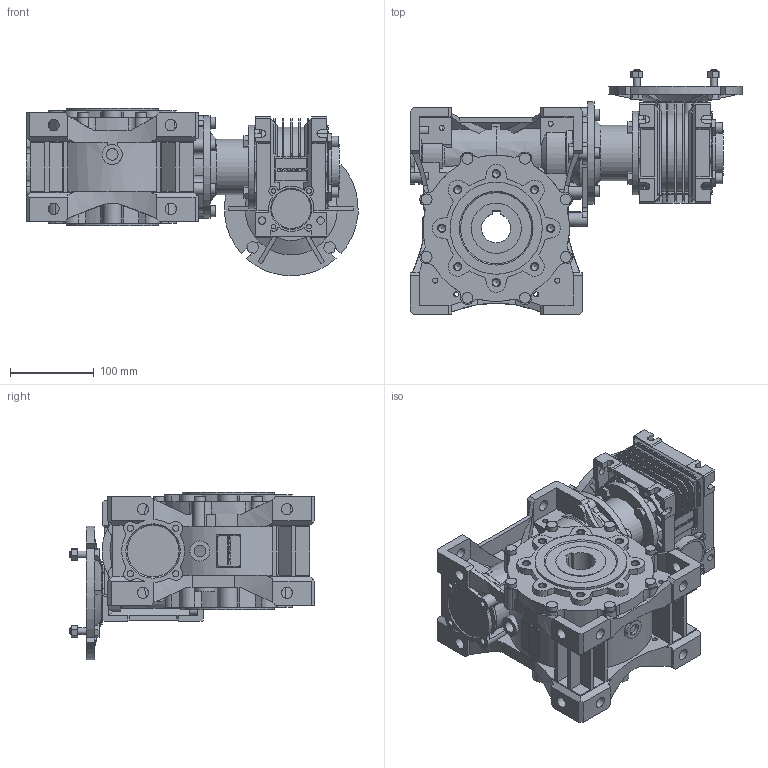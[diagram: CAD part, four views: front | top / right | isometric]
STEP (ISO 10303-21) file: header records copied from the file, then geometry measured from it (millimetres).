
FILE_DESCRIPTION(/* description */ ('STEP AP214'),/* implementation_level */ '2;1');
FILE_NAME(/* name */ 'NMRVP-NMRVP 050-090 100 (10x10) VS1 160x14 25 NO 35 NO NO - - NO - - - NO NO - --(--------)',/* time_stamp */ '2024-10-24T14:28:39+02:00',/* author */ ('License CC BY-ND 4.0'),/* organization */ ('CADENAS'),/* preprocessor_version */ 'ST-DEVELOPER v19.3',/* originating_system */ 'PARTsolutions',/* authorisation */ ' ');
FILE_SCHEMA (('AUTOMOTIVE_DESIGN {1 0 10303 214 3 1 1}'));
Length unit declared in the file: millimetre
Products named in the file (11): NMRVP-NMRVP 050-090 100 (10x10) VS1 160x14 25 NO 35 NO NO - - NO - - 
- NO NO - --(--------); W.090.01.M; 090-35 (140); W.090.14.24.M-p; 050-090-TRA; W.050.01.M; 050-25 (92); VB 050-14 (14)-p; 5071 B5; Corona 50-p; 90-50
Assembly tree (10 placements, depth 2):
  NMRVP-NMRVP 050-090 100 (10x10) VS1 160x14 25 NO 35 NO NO - - NO - - 
- NO NO - --(--------)
    W.090.01.M
    090-35 (140)
    W.090.14.24.M-p
    050-090-TRA
    W.050.01.M
    050-25 (92)
    VB 050-14 (14)-p
    5071 B5
    Corona 50-p
    90-50
Bounding box: 396.77 x 293 x 199.77 mm (x, y, z)
Volume: 5822505.1 mm3; surface area: 795423.2 mm2
Topology: 10 solids, 17 shells, 2238 faces, 6023 edges, 3967 vertices
Faces by surface type: plane 1350, cylinder 732, cone 152, torus 4
Full cylindrical faces by diameter (mm): 3.775 x3, 5.55 x4, 6 x12, 6.647 x8, 7.45 x12, 8 x8, 8.376 x16, 8.8 x8, 10 x14, 13 x18, 13.4 x14, 14 x4, 16 x1, 24 x2, 28 x2, 29 x1, 31 x1, 34 x1, 40 x2, 45 x1, 47 x2, 50 x3, 55 x1, 58 x1, 60 x1, 66 x1, 70 x3, 75 x2, 76 x1, 90 x2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
Entity records: 84722 total; most frequent: CARTESIAN_POINT 13281, DIRECTION 11654, ORIENTED_EDGE 11444, EDGE_CURVE 5722, AXIS2_PLACEMENT_3D 4082, VERTEX_POINT 3916, LINE 3490, VECTOR 3490
